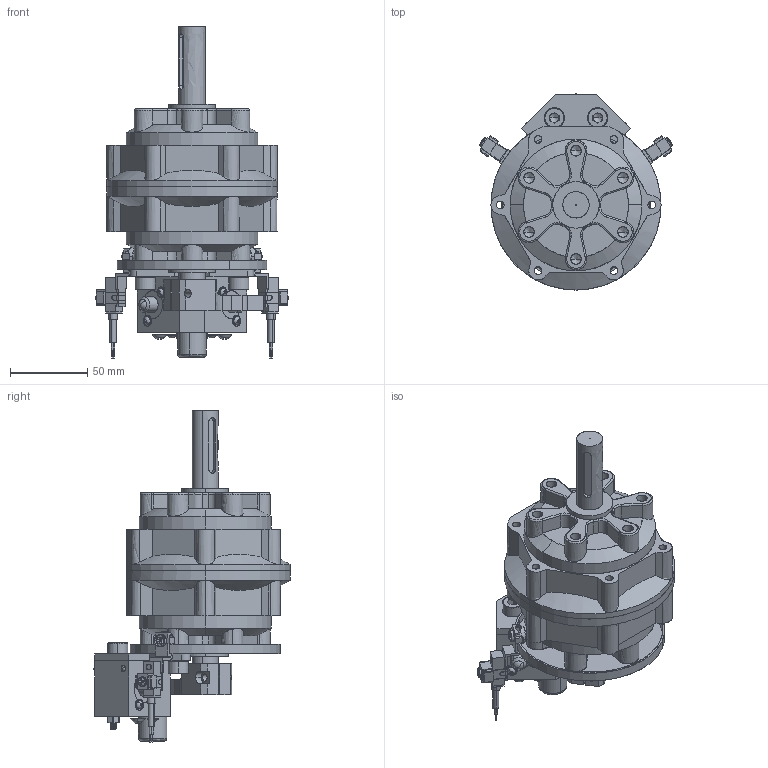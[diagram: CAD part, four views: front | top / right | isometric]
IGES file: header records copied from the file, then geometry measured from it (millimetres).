
Start section: SolidWorks IGES file using analytic representation for surfaces
Global section: file name: C:\Users\Chieh_Lu\Dropbox\¤u§@«Ç\PRN50-150-300-800\PRN150\PRN150\PRN150#-#-#-#-FC.IGS; native system: SolidWorks 2014; preprocessor: SolidWorks 2014; author: Chieh_Lu; date: 160115.004315; units: millimetre
Bounding box: 124.4 x 127 x 214.7 mm (x, y, z)
Surface area: 157035.7 mm2 (no closed solid volume)
Topology: 0 solids, 0 shells, 1381 faces, 16886 edges, 16826 vertices
Faces by surface type: bspline 776, revolution 605
